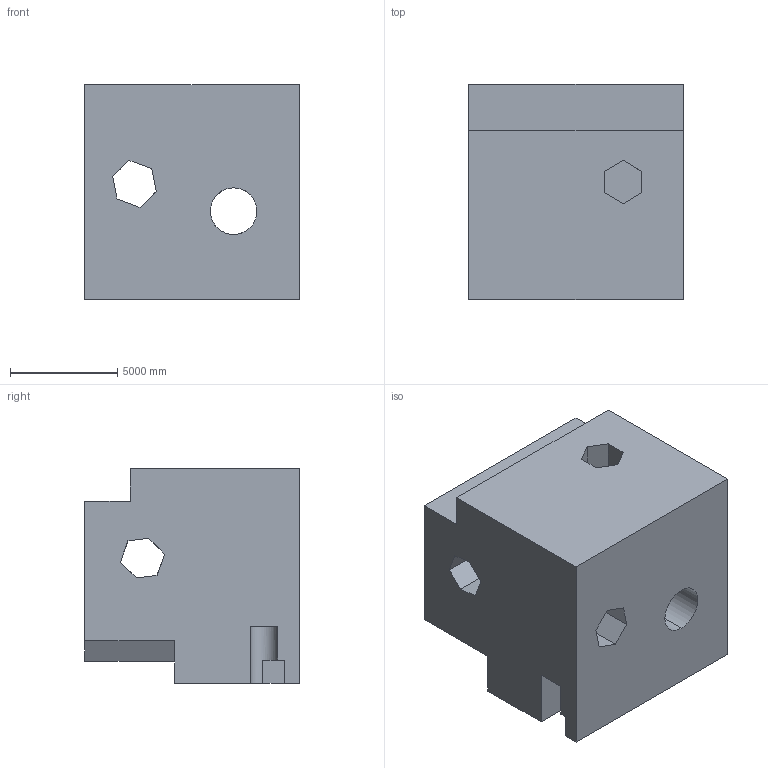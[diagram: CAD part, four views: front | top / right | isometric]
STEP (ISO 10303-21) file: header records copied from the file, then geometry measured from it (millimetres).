
FILE_DESCRIPTION (( 'STEP AP203' ), '1' );
FILE_NAME ('1983.STEP', '2022-08-25T16:58:13', ( 'user' ), ( '' ), 'SwSTEP 2.0', 'SolidWorks 2021', '' );
FILE_SCHEMA (( 'CONFIG_CONTROL_DESIGN' ));
Length unit declared in the file: centimetre
Products named in the file (1): 1983
Bounding box: 10000 x 10000 x 10000 mm (x, y, z)
Volume: 780093348374.3 mm3; surface area: 766754088.9 mm2
Topology: 1 solids, 1 shells, 56 faces, 174 edges, 116 vertices
Faces by surface type: plane 50, cylinder 6
Entity records: 2264 total; most frequent: CARTESIAN_POINT 625, ORIENTED_EDGE 348, DIRECTION 293, EDGE_CURVE 174, LINE 153, VECTOR 153, VERTEX_POINT 116, AXIS2_PLACEMENT_3D 70
